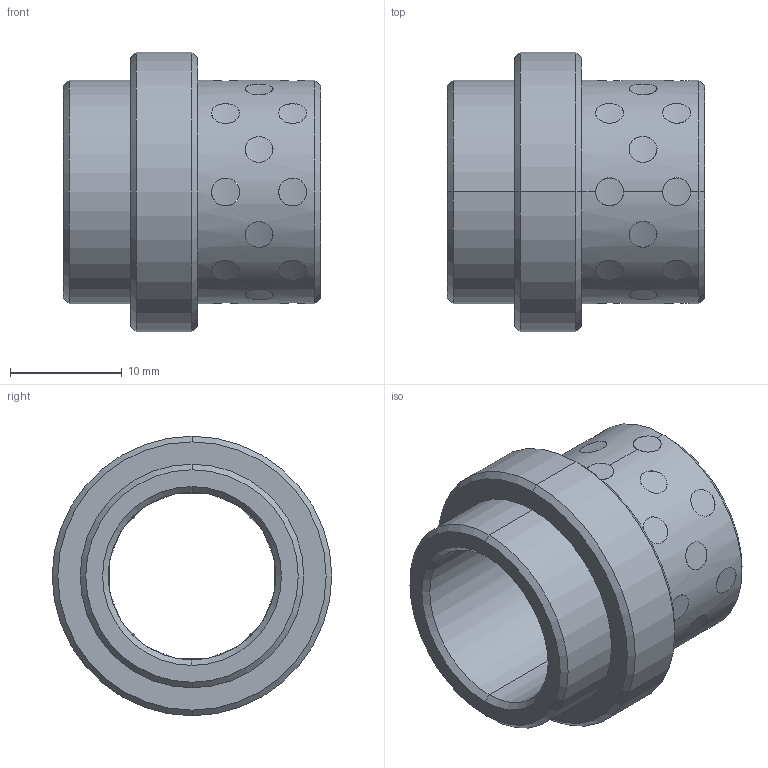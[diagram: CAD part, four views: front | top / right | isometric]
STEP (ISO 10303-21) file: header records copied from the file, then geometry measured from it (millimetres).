
FILE_DESCRIPTION((''),'2;1');
FILE_NAME('G31215017','2017-12-30T',('MANU'),(''),'PRO/ENGINEER BY PARAMETRIC TECHNOLOGY CORPORATION, 2012130','PRO/ENGINEER BY PARAMETRIC TECHNOLOGY CORPORATION, 2012130','');
FILE_SCHEMA(('CONFIG_CONTROL_DESIGN'));
Length unit declared in the file: millimetre
Products named in the file (1): G31215017
Bounding box: 23 x 25 x 25 mm (x, y, z)
Volume: 4171.1 mm3; surface area: 4082.2 mm2
Topology: 25 solids, 25 shells, 168 faces, 360 edges, 236 vertices
Faces by surface type: cylinder 152, cone 12, plane 4
Entity records: 7090 total; most frequent: CARTESIAN_POINT 3724, ORIENTED_EDGE 720, DIRECTION 516, EDGE_CURVE 360, VERTEX_POINT 236, EDGE_LOOP 212, B_SPLINE_CURVE_WITH_KNOTS 208, AXIS2_PLACEMENT_3D 196
